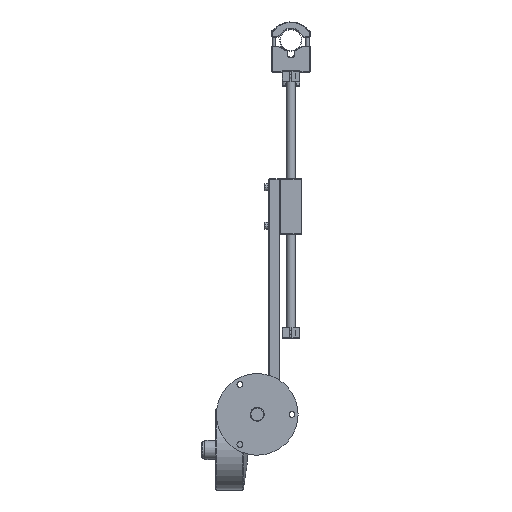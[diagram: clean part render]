
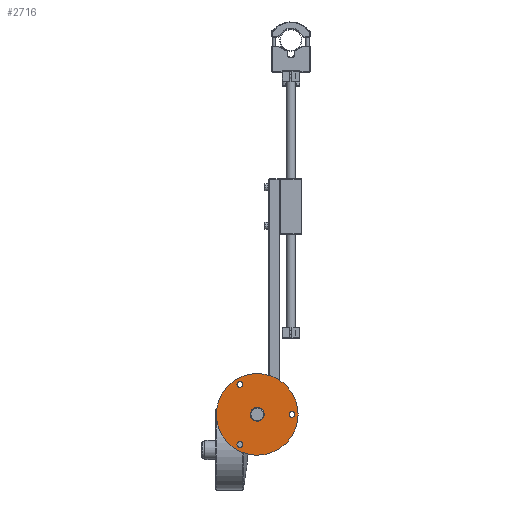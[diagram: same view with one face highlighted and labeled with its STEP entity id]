
A CAD part, left-side view. The second image highlights one B-rep face of the part: STEP entity #2716.
In plain terms, the highlighted planar face has unit normal (-1, 0, 0).
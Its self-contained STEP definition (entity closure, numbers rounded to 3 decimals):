
#2716 = ADVANCED_FACE( '', ( #5571, #5572, #5573, #5574, #5575 ), #5576, .T. );
#5571 = FACE_BOUND( '', #9161, .T. );
#5572 = FACE_BOUND( '', #9162, .T. );
#5573 = FACE_BOUND( '', #9163, .T. );
#5574 = FACE_OUTER_BOUND( '', #9164, .T. );
#5575 = FACE_BOUND( '', #9165, .T. );
#5576 = PLANE( '', #9166 );
#9161 = EDGE_LOOP( '', ( #14427 ) );
#9162 = EDGE_LOOP( '', ( #14428 ) );
#9163 = EDGE_LOOP( '', ( #14429 ) );
#9164 = EDGE_LOOP( '', ( #14430, #14431 ) );
#9165 = EDGE_LOOP( '', ( #14432 ) );
#9166 = AXIS2_PLACEMENT_3D( '', #14433, #14434, #14435 );
#14427 = ORIENTED_EDGE( '', *, *, #19600, .F. );
#14428 = ORIENTED_EDGE( '', *, *, #20270, .F. );
#14429 = ORIENTED_EDGE( '', *, *, #20291, .F. );
#14430 = ORIENTED_EDGE( '', *, *, #20292, .F. );
#14431 = ORIENTED_EDGE( '', *, *, #20293, .T. );
#14432 = ORIENTED_EDGE( '', *, *, #20294, .F. );
#14433 = CARTESIAN_POINT( '', ( -55.07, -3.122, 0. ) );
#14434 = DIRECTION( '', ( -1., 0., 0. ) );
#14435 = DIRECTION( '', ( 0., -1., 0. ) );
#19600 = EDGE_CURVE( '', #22766, #22766, #22767, .T. );
#20270 = EDGE_CURVE( '', #23792, #23792, #23793, .T. );
#20291 = EDGE_CURVE( '', #23823, #23823, #23824, .T. );
#20292 = EDGE_CURVE( '', #23825, #23826, #23827, .T. );
#20293 = EDGE_CURVE( '', #23825, #23826, #23828, .T. );
#20294 = EDGE_CURVE( '', #23829, #23829, #23830, .T. );
#22766 = VERTEX_POINT( '', #27255 );
#22767 = CIRCLE( '', #27256, 5.25 );
#23792 = VERTEX_POINT( '', #29013 );
#23793 = CIRCLE( '', #29014, 5.25 );
#23823 = VERTEX_POINT( '', #29052 );
#23824 = CIRCLE( '', #29053, 5.25 );
#23825 = VERTEX_POINT( '', #29054 );
#23826 = VERTEX_POINT( '', #29055 );
#23827 = LINE( '', #29056, #29057 );
#23828 = CIRCLE( '', #29058, 74. );
#23829 = VERTEX_POINT( '', #29059 );
#23830 = CIRCLE( '', #29060, 12.5 );
#27255 = CARTESIAN_POINT( '', ( -55.07, -83.872, 0. ) );
#27256 = AXIS2_PLACEMENT_3D( '', #33115, #33116, #33117 );
#29013 = CARTESIAN_POINT( '', ( -55.07, 10.628, -54.56 ) );
#29014 = AXIS2_PLACEMENT_3D( '', #33961, #33962, #33963 );
#29052 = CARTESIAN_POINT( '', ( -55.07, 10.628, 54.56 ) );
#29053 = AXIS2_PLACEMENT_3D( '', #33984, #33985, #33986 );
#29054 = CARTESIAN_POINT( '', ( -55.07, -89.612, 1.217 ) );
#29055 = CARTESIAN_POINT( '', ( -55.07, -89.612, -1.217 ) );
#29056 = CARTESIAN_POINT( '', ( -55.07, -89.612, 0. ) );
#29057 = VECTOR( '', #33987, 1000. );
#29058 = AXIS2_PLACEMENT_3D( '', #33988, #33989, #33990 );
#29059 = CARTESIAN_POINT( '', ( -55.07, -28.122, 0. ) );
#29060 = AXIS2_PLACEMENT_3D( '', #33991, #33992, #33993 );
#33115 = CARTESIAN_POINT( '', ( -55.07, -78.622, 0. ) );
#33116 = DIRECTION( '', ( -1., 0., 0. ) );
#33117 = DIRECTION( '', ( 0., -1., 0. ) );
#33961 = CARTESIAN_POINT( '', ( -55.07, 15.878, -54.56 ) );
#33962 = DIRECTION( '', ( -1., 0., 0. ) );
#33963 = DIRECTION( '', ( 0., -1., 0. ) );
#33984 = CARTESIAN_POINT( '', ( -55.07, 15.878, 54.56 ) );
#33985 = DIRECTION( '', ( -1., 0., 0. ) );
#33986 = DIRECTION( '', ( 0., -1., 0. ) );
#33987 = DIRECTION( '', ( 0., 0., -1. ) );
#33988 = CARTESIAN_POINT( '', ( -55.07, -15.622, 0. ) );
#33989 = DIRECTION( '', ( -1., 0., 0. ) );
#33990 = DIRECTION( '', ( 0., -1., 0. ) );
#33991 = CARTESIAN_POINT( '', ( -55.07, -15.622, 0. ) );
#33992 = DIRECTION( '', ( -1., 0., 0. ) );
#33993 = DIRECTION( '', ( 0., -1., 0. ) );
